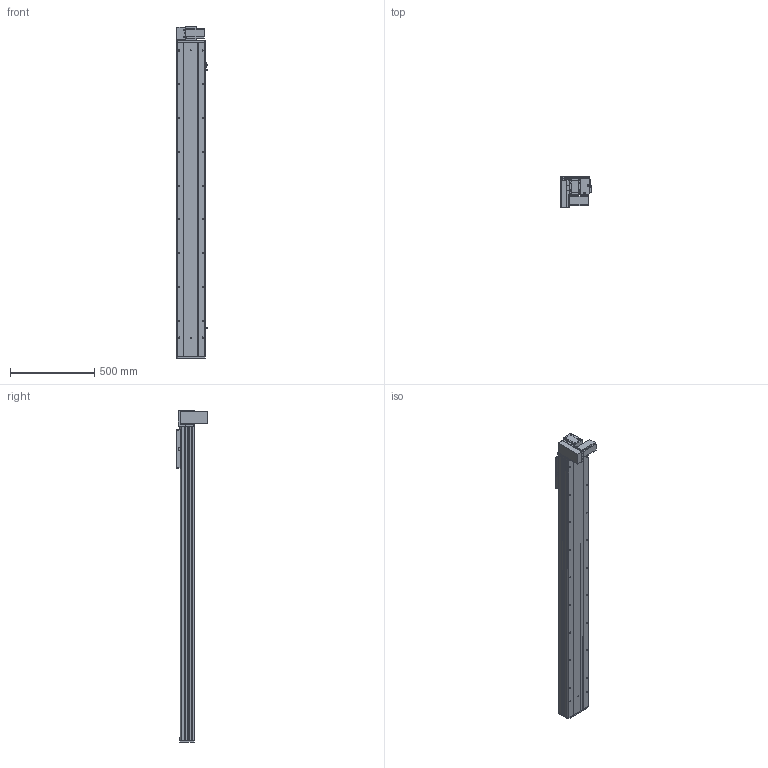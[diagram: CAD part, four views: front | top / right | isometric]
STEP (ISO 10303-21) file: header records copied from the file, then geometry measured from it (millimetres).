
FILE_DESCRIPTION (( 'STEP AP203' ), '1' );
FILE_NAME ('Y170CB-D105-S1550-BM-P400W.STEP', '2020-02-20T07:05:37', ( '微软用户' ), ( '微软中国' ), 'SwSTEP 2.0', 'SolidWorks 2017', '' );
FILE_SCHEMA (( 'CONFIG_CONTROL_DESIGN' ));
Length unit declared in the file: millimetre
Products named in the file (18): 00B-俋欶BM--163; 70CB--耜裔; 70B喘謫眊----; 70C-雄赽釱-奻-; B-源倛裔啣; Y170CB-D105-S1550-BM-P400W; 0C--雄赽釱俋欶-170; 0B-萇儂楊擘啣; 70CB-詩湍--; san松下电机400不带刹车----; Y100-135俋离換覜ん--; 70CB-掛极-; Y170CB-陔俋离換覜結え---; --70CB --喘謫眊楊擘啣-; Y1埴倛裔; 70CB-耜裔啣-; 17B-耜蚾蟀諉啣----; 70C--詩湍揤踡え-
Assembly tree (21 placements, depth 2):
  Y170CB-D105-S1550-BM-P400W
    B-源倛裔啣
    0B-萇儂楊擘啣
    san松下电机400不带刹车----
    70CB-掛极-
    --70CB --喘謫眊楊擘啣-
    70CB-耜裔啣-  x2
    70C--詩湍揤踡え-  x2
    70CB--耜裔
    70C-雄赽釱-奻-
    0C--雄赽釱俋欶-170
    70CB-詩湍--
    Y100-135俋离換覜ん--  x3
    Y170CB-陔俋离換覜結え---
    Y1埴倛裔
    17B-耜蚾蟀諉啣----
    00B-俋欶BM--163
    70B喘謫眊----
Bounding box: 183.5 x 184 x 1966 mm (x, y, z)
Volume: 8704776.9 mm3; surface area: 3132379.9 mm2
Topology: 21 solids, 21 shells, 1031 faces, 2765 edges, 1834 vertices
Faces by surface type: cylinder 545, plane 462, cone 24
Entity records: 32912 total; most frequent: CARTESIAN_POINT 6036, DIRECTION 5354, ORIENTED_EDGE 5012, EDGE_CURVE 2506, AXIS2_PLACEMENT_3D 1968, VERTEX_POINT 1664, VECTOR 1418, LINE 1418
